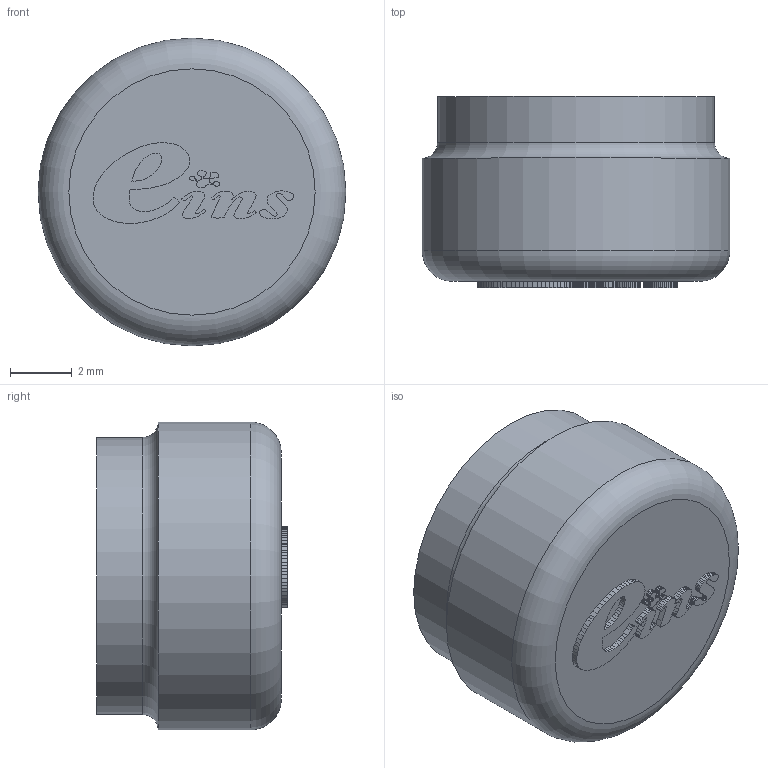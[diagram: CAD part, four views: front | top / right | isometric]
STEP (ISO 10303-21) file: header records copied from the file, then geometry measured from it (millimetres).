
FILE_DESCRIPTION (( 'STEP AP203' ), '1' );
FILE_NAME ('VAPH-SSC.STEP', '2019-08-27T06:52:14', ( '' ), ( '' ), 'SwSTEP 2.0', 'SolidWorks 2018', '' );
FILE_SCHEMA (( 'CONFIG_CONTROL_DESIGN' ));
Length unit declared in the file: millimetre
Products named in the file (2): VAPH-SSC
Bounding box: 10 x 6.2 x 10 mm (x, y, z)
Volume: 312.6 mm3; surface area: 441.6 mm2
Topology: 1 solids, 1 shells, 605 faces, 1781 edges, 1186 vertices
Faces by surface type: plane 597, cylinder 4, torus 4
Full cylindrical faces by diameter (mm): 5 x1, 7 x1, 9 x1, 10 x1
Entity records: 19820 total; most frequent: CARTESIAN_POINT 3564, ORIENTED_EDGE 3544, DIRECTION 2997, EDGE_CURVE 1772, VECTOR 1761, LINE 1761, VERTEX_POINT 1185, EDGE_LOOP 621
